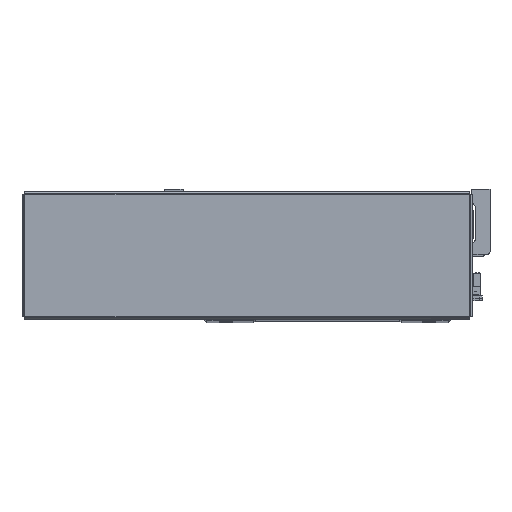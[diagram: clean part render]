
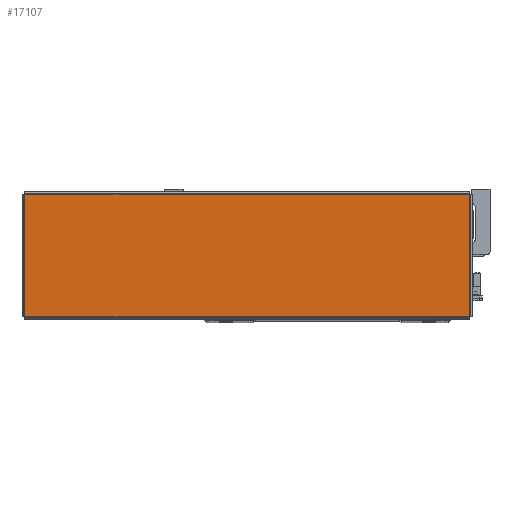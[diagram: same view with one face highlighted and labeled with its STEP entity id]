
A CAD part, top view. The second image highlights one B-rep face of the part: STEP entity #17107.
In plain terms, the highlighted planar face has unit normal (0, 0, 1) as drawn and (0, -1, 0) by its records, which use the part's own axes.
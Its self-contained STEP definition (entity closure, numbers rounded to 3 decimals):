
#712 = VECTOR ( 'NONE', #6246, 1000. ) ;
#751 = LINE ( 'NONE', #6310, #712 ) ;
#776 = LINE ( 'NONE', #6318, #805 ) ;
#805 = VECTOR ( 'NONE', #6372, 1000. ) ;
#812 = LINE ( 'NONE', #6523, #815 ) ;
#815 = VECTOR ( 'NONE', #6452, 1000. ) ;
#871 = LINE ( 'NONE', #6628, #883 ) ;
#883 = VECTOR ( 'NONE', #6662, 1000. ) ;
#4751 = EDGE_LOOP ( 'NONE', ( #46628, #46666, #46592, #46620 ) ) ;
#6246 = DIRECTION ( 'NONE',  ( 0., 0., 1. ) ) ;
#6310 = CARTESIAN_POINT ( 'NONE',  ( 154.013, -1.2, -42.293 ) ) ;
#6318 = CARTESIAN_POINT ( 'NONE',  ( 154.043, -1.2, 42.263 ) ) ;
#6372 = DIRECTION ( 'NONE',  ( -1., 0., 0. ) ) ;
#6452 = DIRECTION ( 'NONE',  ( 1., 0., 0. ) ) ;
#6523 = CARTESIAN_POINT ( 'NONE',  ( -154.043, -1.2, -42.263 ) ) ;
#6628 = CARTESIAN_POINT ( 'NONE',  ( -154.013, -1.2, 42.293 ) ) ;
#6662 = DIRECTION ( 'NONE',  ( 0., 0., -1. ) ) ;
#6924 = CARTESIAN_POINT ( 'NONE',  ( -154.013, -1.2, -42.263 ) ) ;
#6929 = CARTESIAN_POINT ( 'NONE',  ( -154.013, -1.2, 42.263 ) ) ;
#6944 = CARTESIAN_POINT ( 'NONE',  ( 154.013, -1.2, 42.263 ) ) ;
#6966 = CARTESIAN_POINT ( 'NONE',  ( 154.013, -1.2, -42.263 ) ) ;
#10712 = AXIS2_PLACEMENT_3D ( 'NONE', #31189, #31143, #31156 ) ;
#17107 = ADVANCED_FACE ( 'NONE', ( #43095 ), #31171, .F. ) ;
#31143 = DIRECTION ( 'NONE',  ( 0., 1., 0. ) ) ;
#31156 = DIRECTION ( 'NONE',  ( 0., 0., 1. ) ) ;
#31171 = PLANE ( 'NONE',  #10712 ) ;
#31189 = CARTESIAN_POINT ( 'NONE',  ( 0., -1.2, 0. ) ) ;
#39077 = EDGE_CURVE ( 'NONE', #53437, #53417, #751, .T. ) ;
#39099 = EDGE_CURVE ( 'NONE', #53417, #53420, #776, .T. ) ;
#39122 = EDGE_CURVE ( 'NONE', #53475, #53437, #812, .T. ) ;
#39170 = EDGE_CURVE ( 'NONE', #53420, #53475, #871, .T. ) ;
#43095 = FACE_OUTER_BOUND ( 'NONE', #4751, .T. ) ;
#46592 = ORIENTED_EDGE ( 'NONE', *, *, #39170, .T. ) ;
#46620 = ORIENTED_EDGE ( 'NONE', *, *, #39122, .T. ) ;
#46628 = ORIENTED_EDGE ( 'NONE', *, *, #39077, .T. ) ;
#46666 = ORIENTED_EDGE ( 'NONE', *, *, #39099, .T. ) ;
#53417 = VERTEX_POINT ( 'NONE', #6944 ) ;
#53420 = VERTEX_POINT ( 'NONE', #6929 ) ;
#53437 = VERTEX_POINT ( 'NONE', #6966 ) ;
#53475 = VERTEX_POINT ( 'NONE', #6924 ) ;
